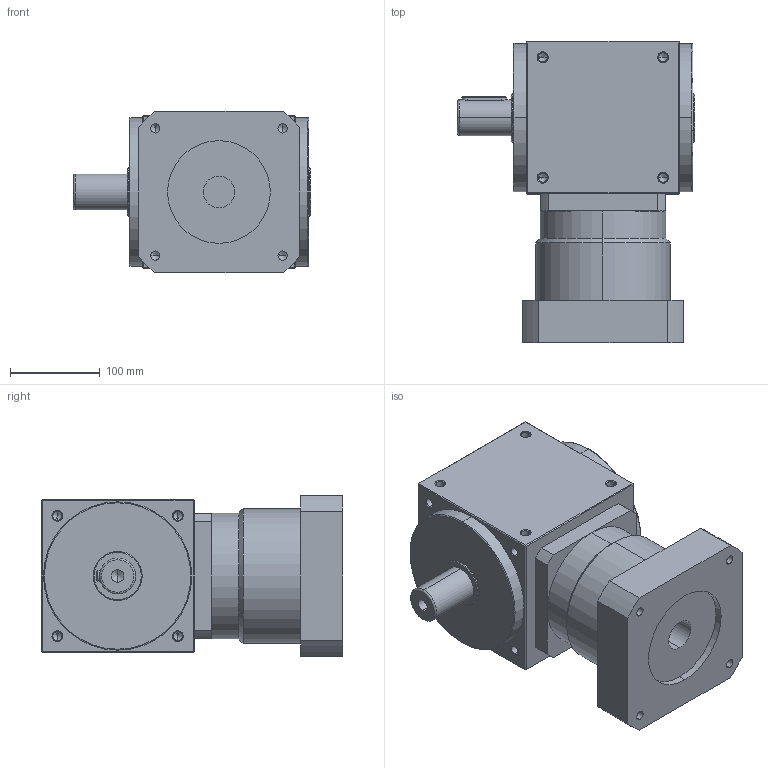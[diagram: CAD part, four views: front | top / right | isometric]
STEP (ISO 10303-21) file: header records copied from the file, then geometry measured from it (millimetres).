
FILE_DESCRIPTION (( 'STEP AP214' ), '1' );
FILE_NAME ('AT170-FL-L1 35-114.STEP', '2020-11-19T09:57:00', ( '微软用户' ), ( '微软中国' ), 'SwSTEP 2.0', 'SolidWorks 2014', '' );
FILE_SCHEMA (( 'AUTOMOTIVE_DESIGN' ));
Length unit declared in the file: millimetre
Products named in the file (2): AT170-FL-L1 35-114
Bounding box: 264 x 335.5 x 180 mm (x, y, z)
Volume: 8974834.2 mm3; surface area: 344869.9 mm2
Topology: 1 solids, 1 shells, 274 faces, 692 edges, 381 vertices
Faces by surface type: cylinder 118, cone 98, plane 52, torus 6
Entity records: 10897 total; most frequent: CARTESIAN_POINT 1721, DIRECTION 1306, ORIENTED_EDGE 1284, EDGE_CURVE 642, AXIS2_PLACEMENT_3D 502, VERTEX_POINT 381, EDGE_LOOP 309, LINE 302
